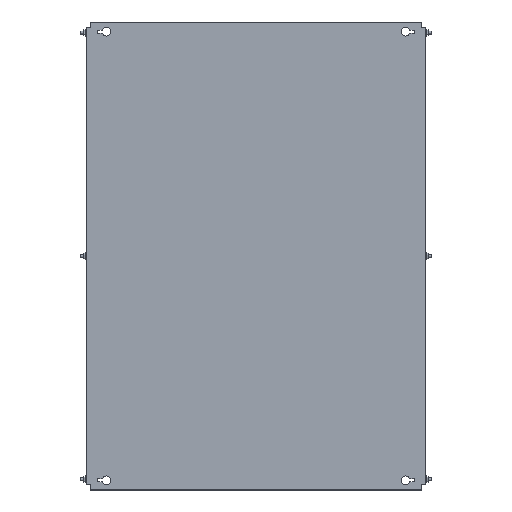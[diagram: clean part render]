
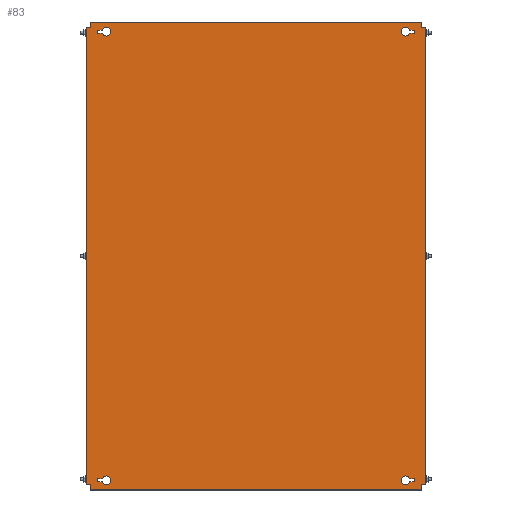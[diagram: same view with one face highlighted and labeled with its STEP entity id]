
A CAD part, top view. The second image highlights one B-rep face of the part: STEP entity #83.
In plain terms, the highlighted planar face has unit normal (0, 0, 1).
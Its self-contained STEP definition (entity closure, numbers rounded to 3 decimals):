
#83 = ADVANCED_FACE('',(#84,#119,#154,#316,#351),#386,.T.);
#84 = FACE_BOUND('',#85,.T.);
#85 = EDGE_LOOP('',(#86,#96,#104,#112));
#86 = ORIENTED_EDGE('',*,*,#87,.T.);
#87 = EDGE_CURVE('',#88,#90,#92,.T.);
#88 = VERTEX_POINT('',#89);
#89 = CARTESIAN_POINT('',(318.393,467.75,2.));
#90 = VERTEX_POINT('',#91);
#91 = CARTESIAN_POINT('',(328.,467.75,2.));
#92 = LINE('',#93,#94);
#93 = CARTESIAN_POINT('',(327.,467.75,2.));
#94 = VECTOR('',#95,1.);
#95 = DIRECTION('',(1.,0.,0.));
#96 = ORIENTED_EDGE('',*,*,#97,.T.);
#97 = EDGE_CURVE('',#90,#98,#100,.T.);
#98 = VERTEX_POINT('',#99);
#99 = CARTESIAN_POINT('',(328.,461.25,2.));
#100 = LINE('',#101,#102);
#101 = CARTESIAN_POINT('',(328.,467.75,2.));
#102 = VECTOR('',#103,1.);
#103 = DIRECTION('',(0.,-1.,0.));
#104 = ORIENTED_EDGE('',*,*,#105,.T.);
#105 = EDGE_CURVE('',#98,#106,#108,.T.);
#106 = VERTEX_POINT('',#107);
#107 = CARTESIAN_POINT('',(318.393,461.25,2.));
#108 = LINE('',#109,#110);
#109 = CARTESIAN_POINT('',(327.,461.25,2.));
#110 = VECTOR('',#111,1.);
#111 = DIRECTION('',(-1.,0.,0.));
#112 = ORIENTED_EDGE('',*,*,#113,.T.);
#113 = EDGE_CURVE('',#106,#88,#114,.T.);
#114 = CIRCLE('',#115,9.);
#115 = AXIS2_PLACEMENT_3D('',#116,#117,#118);
#116 = CARTESIAN_POINT('',(310.,464.5,2.));
#117 = DIRECTION('',(0.,0.,-1.));
#118 = DIRECTION('',(1.,0.,0.));
#119 = FACE_BOUND('',#120,.T.);
#120 = EDGE_LOOP('',(#121,#131,#139,#147));
#121 = ORIENTED_EDGE('',*,*,#122,.T.);
#122 = EDGE_CURVE('',#123,#125,#127,.T.);
#123 = VERTEX_POINT('',#124);
#124 = CARTESIAN_POINT('',(-318.393,-467.75,2.));
#125 = VERTEX_POINT('',#126);
#126 = CARTESIAN_POINT('',(-328.,-467.75,2.));
#127 = LINE('',#128,#129);
#128 = CARTESIAN_POINT('',(-327.,-467.75,2.));
#129 = VECTOR('',#130,1.);
#130 = DIRECTION('',(-1.,0.,0.));
#131 = ORIENTED_EDGE('',*,*,#132,.T.);
#132 = EDGE_CURVE('',#125,#133,#135,.T.);
#133 = VERTEX_POINT('',#134);
#134 = CARTESIAN_POINT('',(-328.,-461.25,2.));
#135 = LINE('',#136,#137);
#136 = CARTESIAN_POINT('',(-328.,-467.75,2.));
#137 = VECTOR('',#138,1.);
#138 = DIRECTION('',(0.,1.,0.));
#139 = ORIENTED_EDGE('',*,*,#140,.T.);
#140 = EDGE_CURVE('',#133,#141,#143,.T.);
#141 = VERTEX_POINT('',#142);
#142 = CARTESIAN_POINT('',(-318.393,-461.25,2.));
#143 = LINE('',#144,#145);
#144 = CARTESIAN_POINT('',(-327.,-461.25,2.));
#145 = VECTOR('',#146,1.);
#146 = DIRECTION('',(1.,-0.,-0.));
#147 = ORIENTED_EDGE('',*,*,#148,.T.);
#148 = EDGE_CURVE('',#141,#123,#149,.T.);
#149 = CIRCLE('',#150,9.);
#150 = AXIS2_PLACEMENT_3D('',#151,#152,#153);
#151 = CARTESIAN_POINT('',(-310.,-464.5,2.));
#152 = DIRECTION('',(0.,0.,-1.));
#153 = DIRECTION('',(-1.,0.,0.));
#154 = FACE_BOUND('',#155,.T.);
#155 = EDGE_LOOP('',(#156,#166,#174,#182,#190,#198,#206,#214,#222,#230,
    #238,#246,#254,#262,#270,#278,#286,#294,#302,#310));
#156 = ORIENTED_EDGE('',*,*,#157,.F.);
#157 = EDGE_CURVE('',#158,#160,#162,.T.);
#158 = VERTEX_POINT('',#159);
#159 = CARTESIAN_POINT('',(-347.4,472.5,2.));
#160 = VERTEX_POINT('',#161);
#161 = CARTESIAN_POINT('',(-342.,472.5,2.));
#162 = LINE('',#163,#164);
#163 = CARTESIAN_POINT('',(-348.,472.5,2.));
#164 = VECTOR('',#165,1.);
#165 = DIRECTION('',(1.,0.,-0.));
#166 = ORIENTED_EDGE('',*,*,#167,.T.);
#167 = EDGE_CURVE('',#158,#168,#170,.T.);
#168 = VERTEX_POINT('',#169);
#169 = CARTESIAN_POINT('',(-350.,472.5,2.));
#170 = LINE('',#171,#172);
#171 = CARTESIAN_POINT('',(-347.4,472.5,2.));
#172 = VECTOR('',#173,1.);
#173 = DIRECTION('',(-1.,0.,0.));
#174 = ORIENTED_EDGE('',*,*,#175,.F.);
#175 = EDGE_CURVE('',#176,#168,#178,.T.);
#176 = VERTEX_POINT('',#177);
#177 = CARTESIAN_POINT('',(-350.,-472.5,2.));
#178 = LINE('',#179,#180);
#179 = CARTESIAN_POINT('',(-350.,-482.5,2.));
#180 = VECTOR('',#181,1.);
#181 = DIRECTION('',(0.,1.,-0.));
#182 = ORIENTED_EDGE('',*,*,#183,.F.);
#183 = EDGE_CURVE('',#184,#176,#186,.T.);
#184 = VERTEX_POINT('',#185);
#185 = CARTESIAN_POINT('',(-347.4,-472.5,2.));
#186 = LINE('',#187,#188);
#187 = CARTESIAN_POINT('',(-342.,-472.5,2.));
#188 = VECTOR('',#189,1.);
#189 = DIRECTION('',(-1.,-0.,-0.));
#190 = ORIENTED_EDGE('',*,*,#191,.T.);
#191 = EDGE_CURVE('',#184,#192,#194,.T.);
#192 = VERTEX_POINT('',#193);
#193 = CARTESIAN_POINT('',(-342.,-472.5,2.));
#194 = LINE('',#195,#196);
#195 = CARTESIAN_POINT('',(-348.,-472.5,2.));
#196 = VECTOR('',#197,1.);
#197 = DIRECTION('',(1.,0.,-0.));
#198 = ORIENTED_EDGE('',*,*,#199,.T.);
#199 = EDGE_CURVE('',#192,#200,#202,.T.);
#200 = VERTEX_POINT('',#201);
#201 = CARTESIAN_POINT('',(-342.,-481.9,2.));
#202 = LINE('',#203,#204);
#203 = CARTESIAN_POINT('',(-342.,482.5,2.));
#204 = VECTOR('',#205,1.);
#205 = DIRECTION('',(0.,-1.,0.));
#206 = ORIENTED_EDGE('',*,*,#207,.T.);
#207 = EDGE_CURVE('',#200,#208,#210,.T.);
#208 = VERTEX_POINT('',#209);
#209 = CARTESIAN_POINT('',(-342.,-482.5,2.));
#210 = LINE('',#211,#212);
#211 = CARTESIAN_POINT('',(-342.,-481.9,2.));
#212 = VECTOR('',#213,1.);
#213 = DIRECTION('',(-0.,-1.,-0.));
#214 = ORIENTED_EDGE('',*,*,#215,.T.);
#215 = EDGE_CURVE('',#208,#216,#218,.T.);
#216 = VERTEX_POINT('',#217);
#217 = CARTESIAN_POINT('',(342.,-482.5,2.));
#218 = LINE('',#219,#220);
#219 = CARTESIAN_POINT('',(342.,-482.5,2.));
#220 = VECTOR('',#221,1.);
#221 = DIRECTION('',(1.,0.,0.));
#222 = ORIENTED_EDGE('',*,*,#223,.F.);
#223 = EDGE_CURVE('',#224,#216,#226,.T.);
#224 = VERTEX_POINT('',#225);
#225 = CARTESIAN_POINT('',(342.,-481.9,2.));
#226 = LINE('',#227,#228);
#227 = CARTESIAN_POINT('',(342.,-482.5,2.));
#228 = VECTOR('',#229,1.);
#229 = DIRECTION('',(0.,-1.,0.));
#230 = ORIENTED_EDGE('',*,*,#231,.T.);
#231 = EDGE_CURVE('',#224,#232,#234,.T.);
#232 = VERTEX_POINT('',#233);
#233 = CARTESIAN_POINT('',(342.,-472.5,2.));
#234 = LINE('',#235,#236);
#235 = CARTESIAN_POINT('',(342.,482.5,2.));
#236 = VECTOR('',#237,1.);
#237 = DIRECTION('',(0.,1.,-0.));
#238 = ORIENTED_EDGE('',*,*,#239,.F.);
#239 = EDGE_CURVE('',#240,#232,#242,.T.);
#240 = VERTEX_POINT('',#241);
#241 = CARTESIAN_POINT('',(347.4,-472.5,2.));
#242 = LINE('',#243,#244);
#243 = CARTESIAN_POINT('',(348.,-472.5,2.));
#244 = VECTOR('',#245,1.);
#245 = DIRECTION('',(-1.,0.,-0.));
#246 = ORIENTED_EDGE('',*,*,#247,.T.);
#247 = EDGE_CURVE('',#240,#248,#250,.T.);
#248 = VERTEX_POINT('',#249);
#249 = CARTESIAN_POINT('',(350.,-472.5,2.));
#250 = LINE('',#251,#252);
#251 = CARTESIAN_POINT('',(347.4,-472.5,2.));
#252 = VECTOR('',#253,1.);
#253 = DIRECTION('',(1.,-0.,0.));
#254 = ORIENTED_EDGE('',*,*,#255,.F.);
#255 = EDGE_CURVE('',#256,#248,#258,.T.);
#256 = VERTEX_POINT('',#257);
#257 = CARTESIAN_POINT('',(350.,472.5,2.));
#258 = LINE('',#259,#260);
#259 = CARTESIAN_POINT('',(350.,-482.5,2.));
#260 = VECTOR('',#261,1.);
#261 = DIRECTION('',(0.,-1.,-0.));
#262 = ORIENTED_EDGE('',*,*,#263,.F.);
#263 = EDGE_CURVE('',#264,#256,#266,.T.);
#264 = VERTEX_POINT('',#265);
#265 = CARTESIAN_POINT('',(347.4,472.5,2.));
#266 = LINE('',#267,#268);
#267 = CARTESIAN_POINT('',(-342.,472.5,2.));
#268 = VECTOR('',#269,1.);
#269 = DIRECTION('',(1.,-0.,0.));
#270 = ORIENTED_EDGE('',*,*,#271,.T.);
#271 = EDGE_CURVE('',#264,#272,#274,.T.);
#272 = VERTEX_POINT('',#273);
#273 = CARTESIAN_POINT('',(342.,472.5,2.));
#274 = LINE('',#275,#276);
#275 = CARTESIAN_POINT('',(348.,472.5,2.));
#276 = VECTOR('',#277,1.);
#277 = DIRECTION('',(-1.,0.,-0.));
#278 = ORIENTED_EDGE('',*,*,#279,.T.);
#279 = EDGE_CURVE('',#272,#280,#282,.T.);
#280 = VERTEX_POINT('',#281);
#281 = CARTESIAN_POINT('',(342.,481.9,2.));
#282 = LINE('',#283,#284);
#283 = CARTESIAN_POINT('',(342.,482.5,2.));
#284 = VECTOR('',#285,1.);
#285 = DIRECTION('',(0.,1.,-0.));
#286 = ORIENTED_EDGE('',*,*,#287,.T.);
#287 = EDGE_CURVE('',#280,#288,#290,.T.);
#288 = VERTEX_POINT('',#289);
#289 = CARTESIAN_POINT('',(342.,482.5,2.));
#290 = LINE('',#291,#292);
#291 = CARTESIAN_POINT('',(342.,481.9,2.));
#292 = VECTOR('',#293,1.);
#293 = DIRECTION('',(-0.,1.,-0.));
#294 = ORIENTED_EDGE('',*,*,#295,.T.);
#295 = EDGE_CURVE('',#288,#296,#298,.T.);
#296 = VERTEX_POINT('',#297);
#297 = CARTESIAN_POINT('',(-342.,482.5,2.));
#298 = LINE('',#299,#300);
#299 = CARTESIAN_POINT('',(-342.,482.5,2.));
#300 = VECTOR('',#301,1.);
#301 = DIRECTION('',(-1.,0.,0.));
#302 = ORIENTED_EDGE('',*,*,#303,.F.);
#303 = EDGE_CURVE('',#304,#296,#306,.T.);
#304 = VERTEX_POINT('',#305);
#305 = CARTESIAN_POINT('',(-342.,481.9,2.));
#306 = LINE('',#307,#308);
#307 = CARTESIAN_POINT('',(-342.,-482.5,2.));
#308 = VECTOR('',#309,1.);
#309 = DIRECTION('',(0.,1.,-0.));
#310 = ORIENTED_EDGE('',*,*,#311,.T.);
#311 = EDGE_CURVE('',#304,#160,#312,.T.);
#312 = LINE('',#313,#314);
#313 = CARTESIAN_POINT('',(-342.,482.5,2.));
#314 = VECTOR('',#315,1.);
#315 = DIRECTION('',(0.,-1.,0.));
#316 = FACE_BOUND('',#317,.T.);
#317 = EDGE_LOOP('',(#318,#328,#336,#344));
#318 = ORIENTED_EDGE('',*,*,#319,.F.);
#319 = EDGE_CURVE('',#320,#322,#324,.T.);
#320 = VERTEX_POINT('',#321);
#321 = CARTESIAN_POINT('',(328.,-461.25,2.));
#322 = VERTEX_POINT('',#323);
#323 = CARTESIAN_POINT('',(318.393,-461.25,2.));
#324 = LINE('',#325,#326);
#325 = CARTESIAN_POINT('',(318.393,-461.25,2.));
#326 = VECTOR('',#327,1.);
#327 = DIRECTION('',(-1.,0.,0.));
#328 = ORIENTED_EDGE('',*,*,#329,.F.);
#329 = EDGE_CURVE('',#330,#320,#332,.T.);
#330 = VERTEX_POINT('',#331);
#331 = CARTESIAN_POINT('',(328.,-467.75,2.));
#332 = LINE('',#333,#334);
#333 = CARTESIAN_POINT('',(328.,-461.25,2.));
#334 = VECTOR('',#335,1.);
#335 = DIRECTION('',(0.,1.,0.));
#336 = ORIENTED_EDGE('',*,*,#337,.F.);
#337 = EDGE_CURVE('',#338,#330,#340,.T.);
#338 = VERTEX_POINT('',#339);
#339 = CARTESIAN_POINT('',(318.393,-467.75,2.));
#340 = LINE('',#341,#342);
#341 = CARTESIAN_POINT('',(327.,-467.75,2.));
#342 = VECTOR('',#343,1.);
#343 = DIRECTION('',(1.,0.,0.));
#344 = ORIENTED_EDGE('',*,*,#345,.F.);
#345 = EDGE_CURVE('',#322,#338,#346,.T.);
#346 = CIRCLE('',#347,9.);
#347 = AXIS2_PLACEMENT_3D('',#348,#349,#350);
#348 = CARTESIAN_POINT('',(310.,-464.5,2.));
#349 = DIRECTION('',(0.,-0.,1.));
#350 = DIRECTION('',(1.,0.,0.));
#351 = FACE_BOUND('',#352,.T.);
#352 = EDGE_LOOP('',(#353,#363,#371,#379));
#353 = ORIENTED_EDGE('',*,*,#354,.F.);
#354 = EDGE_CURVE('',#355,#357,#359,.T.);
#355 = VERTEX_POINT('',#356);
#356 = CARTESIAN_POINT('',(-328.,461.25,2.));
#357 = VERTEX_POINT('',#358);
#358 = CARTESIAN_POINT('',(-318.393,461.25,2.));
#359 = LINE('',#360,#361);
#360 = CARTESIAN_POINT('',(-318.393,461.25,2.));
#361 = VECTOR('',#362,1.);
#362 = DIRECTION('',(1.,0.,0.));
#363 = ORIENTED_EDGE('',*,*,#364,.F.);
#364 = EDGE_CURVE('',#365,#355,#367,.T.);
#365 = VERTEX_POINT('',#366);
#366 = CARTESIAN_POINT('',(-328.,467.75,2.));
#367 = LINE('',#368,#369);
#368 = CARTESIAN_POINT('',(-328.,461.25,2.));
#369 = VECTOR('',#370,1.);
#370 = DIRECTION('',(0.,-1.,0.));
#371 = ORIENTED_EDGE('',*,*,#372,.F.);
#372 = EDGE_CURVE('',#373,#365,#375,.T.);
#373 = VERTEX_POINT('',#374);
#374 = CARTESIAN_POINT('',(-318.393,467.75,2.));
#375 = LINE('',#376,#377);
#376 = CARTESIAN_POINT('',(-327.,467.75,2.));
#377 = VECTOR('',#378,1.);
#378 = DIRECTION('',(-1.,0.,0.));
#379 = ORIENTED_EDGE('',*,*,#380,.F.);
#380 = EDGE_CURVE('',#357,#373,#381,.T.);
#381 = CIRCLE('',#382,9.);
#382 = AXIS2_PLACEMENT_3D('',#383,#384,#385);
#383 = CARTESIAN_POINT('',(-310.,464.5,2.));
#384 = DIRECTION('',(0.,-0.,1.));
#385 = DIRECTION('',(-1.,0.,0.));
#386 = PLANE('',#387);
#387 = AXIS2_PLACEMENT_3D('',#388,#389,#390);
#388 = CARTESIAN_POINT('',(-342.,-482.5,2.));
#389 = DIRECTION('',(-0.,0.,1.));
#390 = DIRECTION('',(1.,0.,0.));
